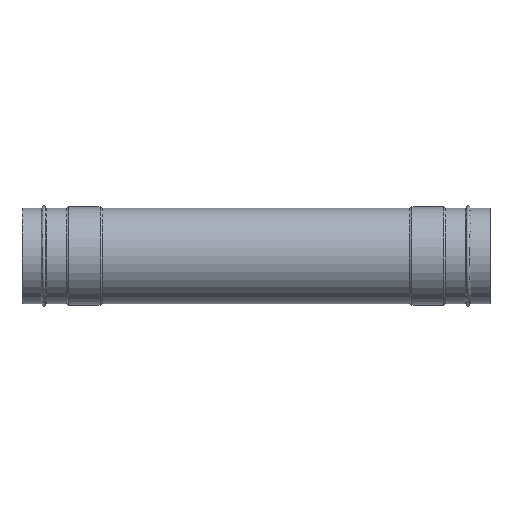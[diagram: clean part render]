
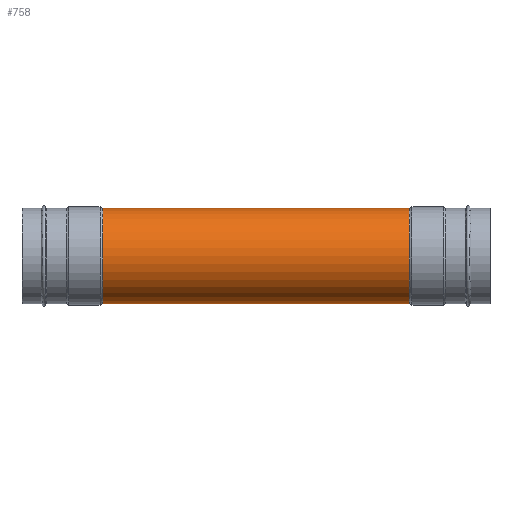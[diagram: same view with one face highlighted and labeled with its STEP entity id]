
A CAD part, top view. The second image highlights one B-rep face of the part: STEP entity #758.
In plain terms, the highlighted cylindrical face has radius 76.75 mm (diameter 153.5 mm), a partial arc.
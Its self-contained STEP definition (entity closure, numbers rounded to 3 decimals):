
#79=CARTESIAN_POINT('',(245.528,0.,0.));
#80=DIRECTION('',(1.,0.,0.));
#81=DIRECTION('',(0.,1.,0.));
#82=AXIS2_PLACEMENT_3D('',#79,#80,#81);
#87=CARTESIAN_POINT('',(-245.528,0.,0.));
#88=DIRECTION('',(-1.,0.,0.));
#89=DIRECTION('',(0.,-1.,0.));
#90=AXIS2_PLACEMENT_3D('',#87,#88,#89);
#175=DIRECTION('',(-1.,0.,0.));
#176=VECTOR('',#175,491.056);
#177=CARTESIAN_POINT('',(245.528,76.75,0.));
#178=LINE('',#177,#176);
#190=DIRECTION('',(-1.,0.,0.));
#191=VECTOR('',#190,491.056);
#192=CARTESIAN_POINT('',(245.528,-76.75,0.));
#193=LINE('',#192,#191);
#617=CARTESIAN_POINT('',(245.528,-76.75,0.));
#618=CARTESIAN_POINT('',(245.528,76.75,0.));
#619=VERTEX_POINT('',#617);
#620=VERTEX_POINT('',#618);
#625=CARTESIAN_POINT('',(-245.528,-76.75,0.));
#626=CARTESIAN_POINT('',(-245.528,76.75,0.));
#627=VERTEX_POINT('',#625);
#628=VERTEX_POINT('',#626);
#743=CARTESIAN_POINT('',(-412.5,0.,0.));
#744=DIRECTION('',(1.,0.,0.));
#745=DIRECTION('',(0.,-1.,0.));
#746=AXIS2_PLACEMENT_3D('',#743,#744,#745);
#747=CYLINDRICAL_SURFACE('',#746,76.75);
#749=ORIENTED_EDGE('',*,*,#748,.T.);
#751=ORIENTED_EDGE('',*,*,#750,.T.);
#753=ORIENTED_EDGE('',*,*,#752,.T.);
#755=ORIENTED_EDGE('',*,*,#754,.F.);
#756=EDGE_LOOP('',(#749,#751,#753,#755));
#757=FACE_OUTER_BOUND('',#756,.F.);
#83=CIRCLE('',#82,76.75);
#91=CIRCLE('',#90,76.75);
#748=EDGE_CURVE('',#620,#619,#83,.T.);
#750=EDGE_CURVE('',#619,#627,#193,.T.);
#752=EDGE_CURVE('',#627,#628,#91,.T.);
#754=EDGE_CURVE('',#620,#628,#178,.T.);
#758=ADVANCED_FACE('',(#757),#747,.T.);
